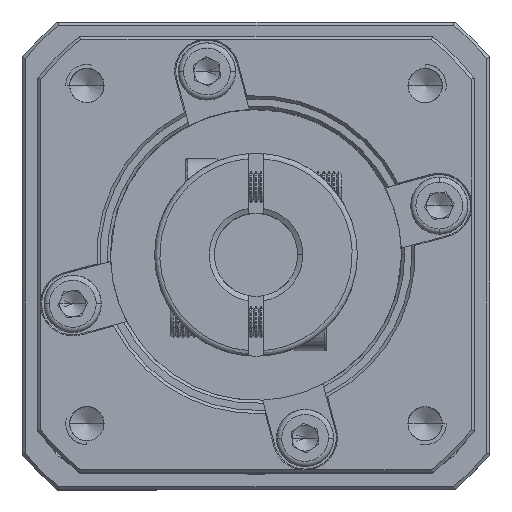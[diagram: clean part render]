
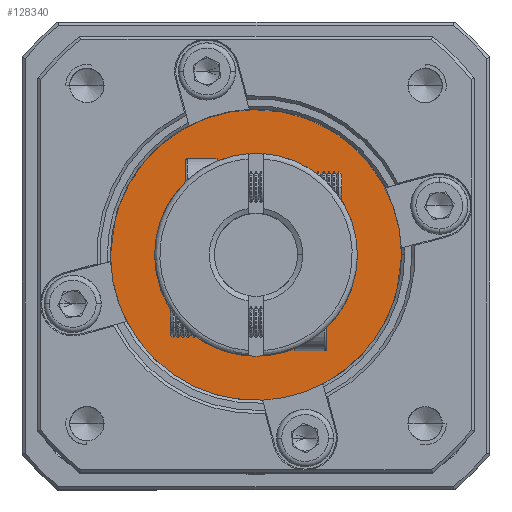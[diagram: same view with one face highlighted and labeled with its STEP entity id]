
A CAD part, top view. The second image highlights one B-rep face of the part: STEP entity #128340.
In plain terms, the highlighted planar face has unit normal (0, 0, 1).
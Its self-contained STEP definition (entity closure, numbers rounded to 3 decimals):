
#248 = AXIS2_PLACEMENT_3D ( 'NONE', #43617, #73486, #54113 ) ;
#7023 = CIRCLE ( 'NONE', #248, 20.8 ) ;
#7432 = CARTESIAN_POINT ( 'NONE',  ( -83.958, 6.61, 68.887 ) ) ;
#16127 = EDGE_LOOP ( 'NONE', ( #58691, #23422 ) ) ;
#23422 = ORIENTED_EDGE ( 'NONE', *, *, #109303, .F. ) ;
#36070 = DIRECTION ( 'NONE',  ( 0., 0., 1. ) ) ;
#43617 = CARTESIAN_POINT ( 'NONE',  ( -63.158, 6.61, 68.887 ) ) ;
#45749 = PLANE ( 'NONE',  #128417 ) ;
#54113 = DIRECTION ( 'NONE',  ( -1., 0., 0. ) ) ;
#58691 = ORIENTED_EDGE ( 'NONE', *, *, #78726, .F. ) ;
#72619 = CARTESIAN_POINT ( 'NONE',  ( -42.358, 6.61, 68.887 ) ) ;
#73486 = DIRECTION ( 'NONE',  ( 0., 0., -1. ) ) ;
#76216 = CARTESIAN_POINT ( 'NONE',  ( -63.158, 6.61, 68.887 ) ) ;
#78726 = EDGE_CURVE ( 'NONE', #90087, #127182, #7023, .T. ) ;
#85921 = DIRECTION ( 'NONE',  ( 0., 0., -1. ) ) ;
#90087 = VERTEX_POINT ( 'NONE', #7432 ) ;
#96458 = DIRECTION ( 'NONE',  ( -1., 0., 0. ) ) ;
#109303 = EDGE_CURVE ( 'NONE', #127182, #90087, #119468, .T. ) ;
#115684 = CARTESIAN_POINT ( 'NONE',  ( -63.158, 6.61, 68.887 ) ) ;
#116976 = DIRECTION ( 'NONE',  ( 1., 0., 0. ) ) ;
#118122 = FACE_OUTER_BOUND ( 'NONE', #16127, .T. ) ;
#118220 = AXIS2_PLACEMENT_3D ( 'NONE', #76216, #85921, #96458 ) ;
#119468 = CIRCLE ( 'NONE', #118220, 20.8 ) ;
#127182 = VERTEX_POINT ( 'NONE', #72619 ) ;
#128340 = ADVANCED_FACE ( 'NONE', ( #118122 ), #45749, .T. ) ;
#128417 = AXIS2_PLACEMENT_3D ( 'NONE', #115684, #36070, #116976 ) ;
